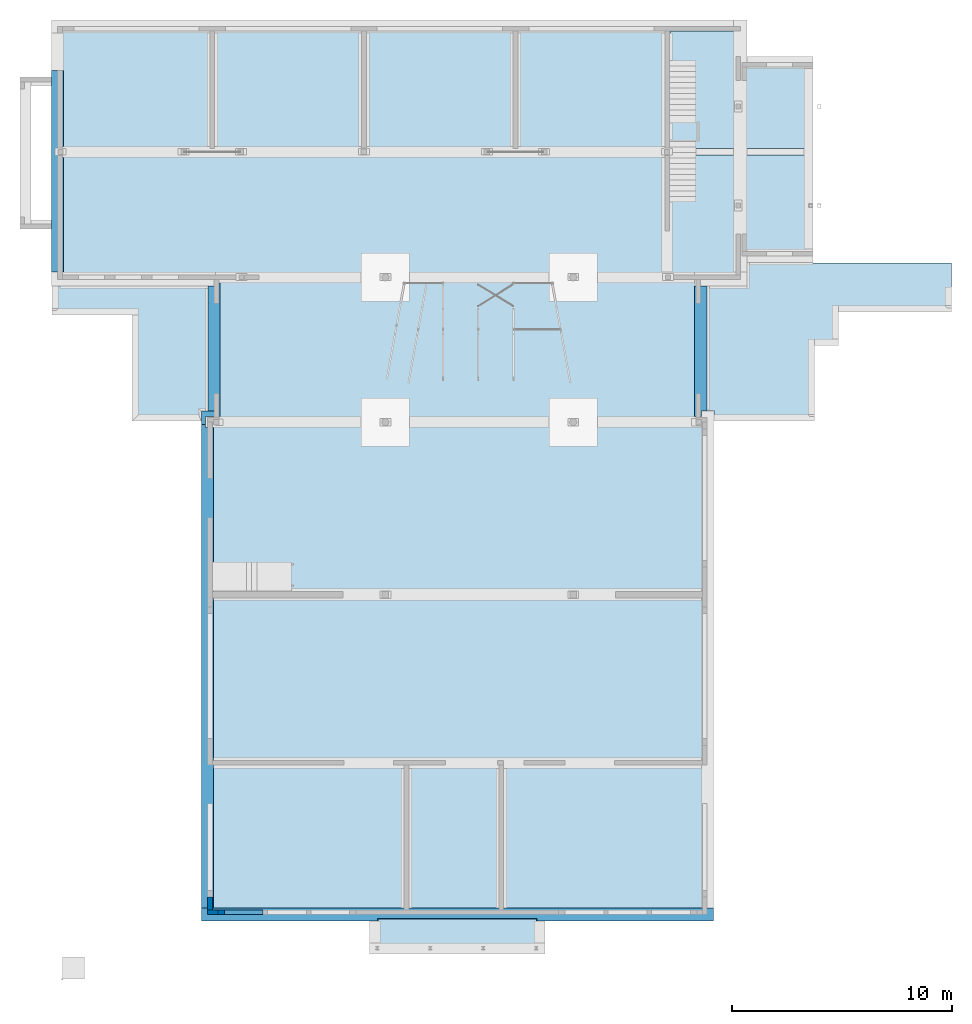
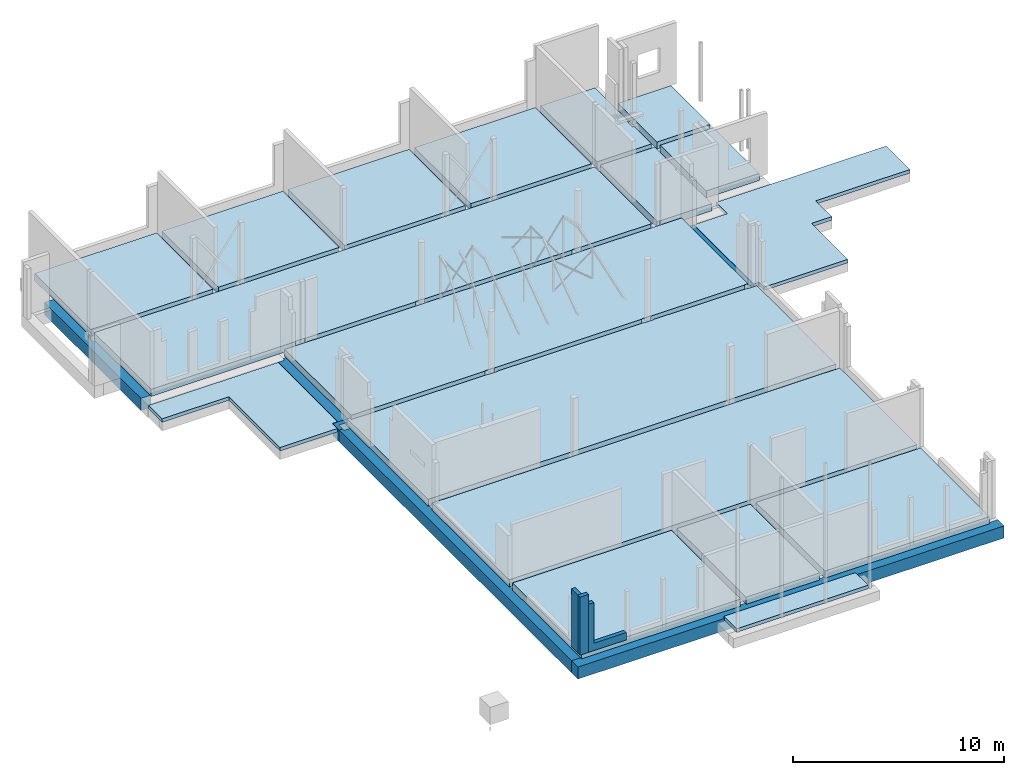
# One storey, part 13 of 17: 18 slabs, 6 beams, 3 walls, 1 opening.
"""IFC2X3 building model written with IfcOpenShell, lengths in millimetres."""

from ifc_helpers import new_model, entity, si_unit, converted_unit, derived_unit, direction, frame, frame_2d, origin, origin_2d_with_axis, place, context, subcontext, project, spatial, polyline, rectangle, outline, extrude, clip, bounded_halfspace, faceted_brep, material, layer, layer_set, layer_usage, type_object, element, save


model = new_model("IFC2X3")

# Units and contexts
model_context = context("Model", 3, precision=0.01, world=origin(), true_north=direction((6.123031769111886e-17, 1.0)))
body_context = subcontext(model_context, "Body", "Model", "MODEL_VIEW")
ifc_project = project(units=[si_unit("LENGTHUNIT", "METRE", prefix="MILLI"), si_unit("AREAUNIT", "SQUARE_METRE", prefix="MILLI"), si_unit("VOLUMEUNIT", "CUBIC_METRE"), converted_unit("PLANEANGLEUNIT", "DEGREE", entity("IfcPlaneAngleMeasure", 0.017453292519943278), si_unit("PLANEANGLEUNIT", "RADIAN"), dimensions=[0, 0, 0, 0, 0, 0, 0]), si_unit("MASSUNIT", "GRAM", prefix="KILO"), derived_unit("MASSDENSITYUNIT", [(si_unit("MASSUNIT", "GRAM", prefix="KILO"), 1), (si_unit("LENGTHUNIT", "METRE"), -3)]), derived_unit("IONCONCENTRATIONUNIT", [(si_unit("MASSUNIT", "GRAM", prefix="KILO"), 1), (si_unit("LENGTHUNIT", "METRE"), -3)]), derived_unit("MOMENTOFINERTIAUNIT", [(si_unit("LENGTHUNIT", "METRE"), 4)]), si_unit("TIMEUNIT", "SECOND"), si_unit("FREQUENCYUNIT", "HERTZ"), si_unit("THERMODYNAMICTEMPERATUREUNIT", "DEGREE_CELSIUS"), derived_unit("THERMALTRANSMITTANCEUNIT", [(si_unit("MASSUNIT", "GRAM", prefix="KILO"), 1), (si_unit("THERMODYNAMICTEMPERATUREUNIT", "KELVIN"), -1), (si_unit("TIMEUNIT", "SECOND"), -3)]), derived_unit("THERMALCONDUCTANCEUNIT", [(si_unit("MASSUNIT", "GRAM", prefix="KILO"), 1), (si_unit("THERMODYNAMICTEMPERATUREUNIT", "KELVIN"), -1), (si_unit("TIMEUNIT", "SECOND"), -3), (si_unit("LENGTHUNIT", "METRE"), 1)]), derived_unit("VOLUMETRICFLOWRATEUNIT", [(si_unit("LENGTHUNIT", "METRE", prefix="DECI"), 3), (si_unit("TIMEUNIT", "SECOND"), -1)]), derived_unit("MASSFLOWRATEUNIT", [(si_unit("MASSUNIT", "GRAM", prefix="KILO"), 1), (si_unit("TIMEUNIT", "SECOND"), -1)]), derived_unit("ROTATIONALFREQUENCYUNIT", [(si_unit("TIMEUNIT", "SECOND"), -1)]), si_unit("ELECTRICCURRENTUNIT", "AMPERE"), si_unit("ELECTRICVOLTAGEUNIT", "VOLT"), si_unit("POWERUNIT", "WATT"), si_unit("FORCEUNIT", "NEWTON", prefix="KILO"), si_unit("ILLUMINANCEUNIT", "LUX"), si_unit("LUMINOUSFLUXUNIT", "LUMEN"), si_unit("LUMINOUSINTENSITYUNIT", "CANDELA"), si_unit("ENERGYUNIT", "JOULE"), derived_unit("USERDEFINED", [(si_unit("MASSUNIT", "GRAM", prefix="KILO"), -1), (si_unit("LENGTHUNIT", "METRE"), -2), (si_unit("TIMEUNIT", "SECOND"), 3), (si_unit("LUMINOUSFLUXUNIT", "LUMEN"), 1)]), derived_unit("USERDEFINED", [(si_unit("MASSUNIT", "GRAM", prefix="KILO"), 1), (si_unit("TIMEUNIT", "SECOND"), -3), (si_unit("LENGTHUNIT", "METRE"), 3), (si_unit("ELECTRICCURRENTUNIT", "AMPERE"), -2)]), derived_unit("SOUNDPOWERUNIT", [(si_unit("MASSUNIT", "GRAM", prefix="KILO"), 1), (si_unit("TIMEUNIT", "SECOND"), -3), (si_unit("LENGTHUNIT", "METRE"), 2)]), derived_unit("SOUNDPRESSUREUNIT", [(si_unit("MASSUNIT", "GRAM", prefix="KILO"), 1), (si_unit("LENGTHUNIT", "METRE"), -1), (si_unit("TIMEUNIT", "SECOND"), -2)]), derived_unit("LINEARVELOCITYUNIT", [(si_unit("LENGTHUNIT", "METRE"), 1), (si_unit("TIMEUNIT", "SECOND"), -1)]), si_unit("PRESSUREUNIT", "PASCAL"), derived_unit("USERDEFINED", [(si_unit("MASSUNIT", "GRAM", prefix="KILO"), 1), (si_unit("LENGTHUNIT", "METRE"), -2), (si_unit("TIMEUNIT", "SECOND"), -2)]), derived_unit("LINEARFORCEUNIT", [(si_unit("MASSUNIT", "GRAM", prefix="KILO"), 1), (si_unit("TIMEUNIT", "SECOND"), -2)]), derived_unit("PLANARFORCEUNIT", [(si_unit("MASSUNIT", "GRAM", prefix="KILO"), 1), (si_unit("LENGTHUNIT", "METRE"), -1), (si_unit("TIMEUNIT", "SECOND"), -2)]), derived_unit("SPECIFICHEATCAPACITYUNIT", [(si_unit("THERMODYNAMICTEMPERATUREUNIT", "KELVIN"), -1), (si_unit("LENGTHUNIT", "METRE"), 2), (si_unit("TIMEUNIT", "SECOND"), -2)]), derived_unit("HEATFLUXDENSITYUNIT", [(si_unit("MASSUNIT", "GRAM", prefix="KILO"), 1), (si_unit("TIMEUNIT", "SECOND"), -3)]), derived_unit("HEATINGVALUEUNIT", [(si_unit("LENGTHUNIT", "METRE"), 2), (si_unit("TIMEUNIT", "SECOND"), -2)]), derived_unit("VAPORPERMEABILITYUNIT", [(si_unit("LENGTHUNIT", "METRE"), -1), (si_unit("TIMEUNIT", "SECOND"), 1)]), derived_unit("DYNAMICVISCOSITYUNIT", [(si_unit("MASSUNIT", "GRAM", prefix="KILO"), 1), (si_unit("TIMEUNIT", "SECOND"), -1), (si_unit("LENGTHUNIT", "METRE"), -1)]), derived_unit("THERMALEXPANSIONCOEFFICIENTUNIT", [(si_unit("THERMODYNAMICTEMPERATUREUNIT", "KELVIN"), -1)]), derived_unit("MODULUSOFELASTICITYUNIT", [(si_unit("MASSUNIT", "GRAM", prefix="KILO"), 1), (si_unit("LENGTHUNIT", "METRE"), -1), (si_unit("TIMEUNIT", "SECOND"), -2)]), derived_unit("ISOTHERMALMOISTURECAPACITYUNIT", [(si_unit("MASSUNIT", "GRAM", prefix="KILO"), -1), (si_unit("LENGTHUNIT", "METRE"), 3)]), derived_unit("MOISTUREDIFFUSIVITYUNIT", [(si_unit("TIMEUNIT", "SECOND"), -1), (si_unit("LENGTHUNIT", "METRE"), 2)]), derived_unit("MASSPERLENGTHUNIT", [(si_unit("MASSUNIT", "GRAM", prefix="KILO"), 1), (si_unit("LENGTHUNIT", "METRE"), -1)]), derived_unit("THERMALRESISTANCEUNIT", [(si_unit("MASSUNIT", "GRAM", prefix="KILO"), -1), (si_unit("TIMEUNIT", "SECOND"), 3), (si_unit("THERMODYNAMICTEMPERATUREUNIT", "KELVIN"), 1)]), derived_unit("ACCELERATIONUNIT", [(si_unit("LENGTHUNIT", "METRE"), 1), (si_unit("TIMEUNIT", "SECOND"), -2)]), derived_unit("ANGULARVELOCITYUNIT", [(si_unit("TIMEUNIT", "SECOND"), -1), (si_unit("PLANEANGLEUNIT", "RADIAN"), 1)]), derived_unit("LINEARSTIFFNESSUNIT", [(si_unit("MASSUNIT", "GRAM", prefix="KILO"), 1), (si_unit("TIMEUNIT", "SECOND"), -2)]), derived_unit("WARPINGCONSTANTUNIT", [(si_unit("LENGTHUNIT", "METRE"), 6)]), derived_unit("LINEARMOMENTUNIT", [(si_unit("MASSUNIT", "GRAM", prefix="KILO"), 1), (si_unit("LENGTHUNIT", "METRE"), 1), (si_unit("TIMEUNIT", "SECOND"), -2)]), derived_unit("TORQUEUNIT", [(si_unit("MASSUNIT", "GRAM", prefix="KILO"), 1), (si_unit("LENGTHUNIT", "METRE"), 2), (si_unit("TIMEUNIT", "SECOND"), -2)])], contexts=[model_context])

# Site, building, storey
site_placement = place(None, origin())
site = spatial("IfcSite", under=ifc_project, at=site_placement, Name="Default", CompositionType="ELEMENT")
building_placement = place(site_placement, origin())
building = spatial("IfcBuilding", under=site, at=building_placement, CompositionType="ELEMENT")
storey_placement = place(building_placement, frame((0.0, 0.0, -70.0)))
storey = spatial("IfcBuildingStorey", under=building, at=storey_placement, Name="F1 begg (bk ruwe vloer)", CompositionType="ELEMENT", Elevation=-69.99999999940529)

# Beams
ifc_material_1 = material(Name="Beton, ihwg C30/37")
beam_type_1 = type_object("IfcBeamType", Name="btl_ihwg - RBeam:600x700", PredefinedType="NOTDEFINED")
beam_1_placement = place(storey_placement, frame((6325.00139722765, 2644.6050130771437, -1110.0)))
element("IfcBeam", 1, at=beam_1_placement, inside=storey, type_object=beam_type_1, material=ifc_material_1, Name="btl_ihwg - RBeam:600x700", ObjectType="btl_ihwg - RBeam:600x700", context=body_context, shape_type="Brep", body=[
    faceted_brep([(23299.984372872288, 0.0, 700.0), (23299.984372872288, 600.0, 700.0), (22749.984372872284, 600.0, 700.0), (13903.354357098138, 600.0, 700.0), (13403.354357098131, 600.0, 700.0), (9589.840287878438, 600.0, 700.0), (9089.840287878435, 600.0, 700.0), (550.0, 600.0, 700.0), (0.0, 600.0, 700.0), (0.0, 0.0, 700.0), (8022.361711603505, 0.0, 700.0), (8022.361711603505, 120.0, 700.0), (15272.361711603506, 120.0, 700.0), (15272.361711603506, 0.0, 700.0), (23299.984372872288, 0.0, 0.0), (15272.361711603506, 0.0, 550.0), (15144.861711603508, 0.0, 550.0), (8149.861711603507, 0.0, 550.0), (8022.361711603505, 0.0, 550.0), (0.0, 0.0, 0.0), (7649.861711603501, 0.0, 0.0), (8149.861711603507, 0.0, 0.0), (15144.861711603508, 0.0, 0.0), (15644.861711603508, 0.0, 0.0), (23299.984372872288, 600.0, 0.0), (0.0, 600.0, 0.0), (550.0, 600.0, 0.0), (9089.840287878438, 600.0, 0.0), (9589.84028787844, 600.0, 0.0), (13403.354357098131, 600.0, 0.0), (13903.354357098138, 600.0, 0.0), (22749.984372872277, 600.0, 0.0), (15272.361711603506, 120.0, 550.0), (8022.361711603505, 120.0, 550.0)], [[[0, 1, 2, 3, 4, 5, 6, 7, 8, 9, 10, 11, 12, 13]], [[14, 0, 13, 15, 16, 17, 18, 10, 9, 19, 20, 21, 22, 23]], [[24, 14, 23, 22, 21, 20, 19, 25, 26, 27, 28, 29, 30, 31]], [[1, 24, 31, 30, 29, 28, 27, 26, 25, 8, 7, 6, 5, 4, 3, 2]], [[1, 0, 14, 24]], [[32, 33, 18, 17, 16, 15]], [[33, 32, 12, 11]], [[18, 33, 11, 10]], [[32, 15, 13, 12]], [[9, 8, 25, 19]]]),
])
beam_2_placement = place(storey_placement, frame((6324.965516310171, 25244.57757401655, -1110.0)))
element("IfcBeam", 2, at=beam_2_placement, inside=storey, type_object=beam_type_1, material=ifc_material_1, Name="btl_ihwg - RBeam:600x700", ObjectType="btl_ihwg - RBeam:600x700", context=body_context, shape_type="Brep", body=[
    faceted_brep([(736.0588430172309, 600.0, 0.0), (736.0588430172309, 600.0, 700.0), (736.0588430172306, 350.0274390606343, 700.0), (736.0588430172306, 350.02743906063, 0.0), (0.0, 600.0, 700.0), (0.0, 600.0, 0.0), (0.0, 0.0, 0.0), (0.0, 0.0, 700.0), (180.02025378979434, 0.0, 700.0), (180.02025378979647, 350.0274390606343, 700.0), (300.036994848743, 600.0, 700.0), (180.02025378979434, 0.0, 0.0), (180.03699484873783, 600.0, 0.0), (300.036994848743, 600.0, 0.0), (180.0202537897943, 350.0274390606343, 0.0)], [[[0, 1, 2, 3]], [[4, 5, 6, 7]], [[4, 7, 8, 9, 2, 1, 10]], [[7, 6, 11, 8]], [[6, 5, 12, 13, 0, 3, 14, 11]], [[1, 0, 13, 12, 5, 4, 10]], [[14, 9, 8, 11]], [[9, 14, 3, 2]]]),
])
ifc_material_2 = material(Name="Concrete - Cast-in-Place - C30/37")
beam_type_2 = type_object("IfcBeamType", Name="btl_ihwg - RBeam:550x700", PredefinedType="NOTDEFINED")
beam_3_placement = place(storey_placement, frame((6625.002511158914, 25594.60501307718, -1110.0), z_axis=(0.0, 0.0, 1.0), x_axis=(0.0, -1.0, 0.0)))
element("IfcBeam", 3, at=beam_3_placement, inside=storey, type_object=beam_type_2, material=ifc_material_2, Name="btl_ihwg - RBeam:550x700", ObjectType="btl_ihwg - RBeam:550x700", context=body_context, shape_type="Brep", body=[
    faceted_brep([(0.0, 550.0, 0.0), (0.0, 550.0, 700.0), (0.0, 436.0218481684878, 700.0), (0.0, 436.0218481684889, 0.0), (-5942.9681520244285, 354.9978761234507, 700.0), (-5942.9681520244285, 0.0, 700.0), (-249.97256093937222, 0.0, 700.0), (-249.97256093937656, 436.0218481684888, 700.0), (-6092.9681520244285, 550.0, 700.0), (-6092.9681520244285, 354.9978761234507, 700.0), (-5942.9681520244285, 0.0, 500.0), (-5942.9681520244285, 0.0, 0.0), (-5822.968152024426, 0.0, 0.0), (-249.97256093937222, 0.0, 0.0), (-249.97256093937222, 0.0, 500.0), (-5942.9681520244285, 354.9978761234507, 0.0), (-6092.9681520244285, 354.9978761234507, 0.0), (-6092.9681520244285, 550.0, 0.0), (-249.97256093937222, 436.0218481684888, 0.0)], [[[0, 1, 2, 3]], [[4, 5, 6, 7, 2, 1, 8, 9]], [[5, 10, 11, 12, 13, 14, 6]], [[11, 15, 16, 17, 0, 3, 18, 13, 12]], [[1, 0, 17, 8]], [[5, 4, 15, 11, 10]], [[15, 4, 9, 16]], [[9, 8, 17, 16]], [[18, 7, 6, 14, 13]], [[7, 18, 3, 2]]]),
])
beam_4_placement = place(storey_placement, frame((6325.001397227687, 3244.6050130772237, -1110.0), z_axis=(0.0, 0.0, 1.0), x_axis=(0.0, -1.0, 0.0)))
element("IfcBeam", 4, at=beam_4_placement, inside=storey, type_object=beam_type_2, material=ifc_material_2, Name="btl_ihwg - RBeam:550x700", ObjectType="btl_ihwg - RBeam:550x700", context=body_context, shape_type="Brep", body=[
    faceted_brep([(0.0, 0.0, 700.0), (0.0, 550.0, 700.0), (-6350.0, 550.0, 700.0), (-6850.0, 550.0, 700.0), (-13975.0, 550.0, 700.0), (-14525.0, 550.0, 700.0), (-21850.0, 550.0, 700.0), (-21850.0, 179.98437287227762, 700.0), (-21999.97256093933, 179.9843728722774, 700.0), (-21999.97256093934, 0.0, 700.0), (0.0, 0.0, 0.0), (-21999.97256093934, 0.0, 0.0), (0.0, 550.0, 0.0), (-21999.97256093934, 179.9843728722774, 0.0), (-21850.0, 179.98437287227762, 0.0), (-21850.0, 550.0, 0.0), (-14525.0, 550.0, 0.0), (-13975.0, 550.0, 0.0), (-6850.0, 550.0, 0.0), (-6350.0, 550.0, 0.0)], [[[0, 1, 2, 3, 4, 5, 6, 7, 8, 9]], [[10, 0, 9, 11]], [[12, 10, 11, 13, 14, 15, 16, 17, 18, 19]], [[1, 12, 19, 18, 17, 16, 15, 6, 5, 4, 3, 2]], [[1, 0, 10, 12]], [[7, 6, 15, 14]], [[7, 14, 13, 8]], [[9, 8, 13, 11]]]),
])
beam_5_placement = place(storey_placement, frame((28774.982459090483, 25594.60501307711, -1110.0), z_axis=(0.0, 0.0, 1.0), x_axis=(0.0, 1.0, 0.0)))
element("IfcBeam", 5, at=beam_5_placement, inside=storey, type_object=beam_type_2, material=ifc_material_2, Name="btl_ihwg - RBeam:550x700", ObjectType="btl_ihwg - RBeam:550x700", context=body_context, shape_type="Brep", body=[
    faceted_brep([(250.0, -300.00331100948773, 700.0), (250.0, -550.0, 700.0), (5942.968152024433, -550.0, 700.0), (5942.968152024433, 0.0, 700.0), (0.0, 0.0, 700.0), (0.0, -300.00331100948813, 700.0), (250.0, -550.0, 0.0), (309.97256093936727, -550.0, 0.0), (5942.968152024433, -550.0, 0.0), (5942.968152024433, -550.0, 500.0), (250.0, -300.00331100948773, 0.0), (0.0, -300.00331100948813, 0.0), (0.0, 0.0, 0.0), (5942.968152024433, 0.0, 0.0)], [[[0, 1, 2, 3, 4, 5]], [[1, 6, 7, 8, 9, 2]], [[6, 10, 11, 12, 13, 8, 7]], [[12, 4, 3, 13]], [[10, 0, 5, 11]], [[0, 10, 6, 1]], [[5, 4, 12, 11]], [[3, 2, 9, 8, 13]]]),
])
beam_6_placement = place(storey_placement, frame((-499.99961271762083, 32187.573165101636, -1110.0), z_axis=(0.0, 0.0, 1.0), x_axis=(0.0, -1.0, 0.0)))
element("IfcBeam", 6, at=beam_6_placement, inside=storey, type_object=beam_type_2, material=ifc_material_2, Name="btl_ihwg - RBeam:550x700", ObjectType="btl_ihwg - RBeam:550x700", context=body_context, shape_type="Brep", body=[
    faceted_brep([(-5207.000039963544, 376.6849582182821, 700.0), (-5707.000039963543, 376.6849582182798, 700.0), (-5707.000039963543, 550.0, 700.0), (-9157.0, 550.0, 700.0), (-9157.0, 0.0, 700.0), (-8856.666141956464, 0.0, 700.0), (-8456.66614195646, 0.0, 700.0), (-2356.3647477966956, 0.0, 700.0), (-1956.3647477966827, 0.0, 700.0), (0.0, 0.0, 700.0), (0.0, 550.0, 700.0), (-5207.000039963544, 550.0, 700.0), (-9157.0, 0.0, 0.0), (-8856.666141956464, 0.0, 0.0), (-8456.66614195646, 0.0, 0.0), (-2356.3647477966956, 0.0, 0.0), (-1956.3647477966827, 0.0, 0.0), (0.0, 0.0, 0.0), (-5707.000039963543, 376.68495821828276, 0.0), (-5207.000039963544, 376.68495821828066, 0.0), (-5207.000039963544, 550.0, 0.0), (0.0, 550.0, 0.0), (-9157.0, 550.0, 0.0), (-5707.000039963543, 550.0, 0.0)], [[[0, 1, 2, 3, 4, 5, 6, 7, 8, 9, 10, 11]], [[4, 12, 13, 14, 15, 16, 17, 9, 8, 7, 6, 5]], [[18, 19, 20, 21, 17, 16, 15, 14, 13, 12, 22, 23]], [[20, 11, 10, 21]], [[18, 1, 0, 19]], [[19, 0, 11, 20]], [[1, 18, 23, 2]], [[2, 23, 22, 3]], [[3, 22, 12, 4]], [[10, 9, 17, 21]]]),
])

# Slabs
ifc_material_3 = material(Name="Druklaag, C20/25 op systeemvloer")
ifc_layer_1 = layer(ifc_material_3, 60.0)
ifc_material_4 = material(Name="Beton, prefab - kanaalplaat")
ifc_layer_2 = layer(ifc_material_4, 200.0)
ifc_material_5 = material(Name="Isolatie, onder vloer")
ifc_layer_3 = layer(ifc_material_5, 150.0)
ifc_layer_set_1 = layer_set([ifc_layer_1, ifc_layer_2, ifc_layer_3], Name="Floor:A1_ geisoleerd kanaalplaat d=200+ druklaag 60-50-60")
ifc_layer_usage_1 = layer_usage(ifc_layer_set_1, "AXIS3", "POSITIVE", 0.0)
slab_type_1 = type_object("IfcSlabType", Name="Floor:A1_ geisoleerd kanaalplaat d=200+ druklaag 60-50-60", PredefinedType="FLOOR", material=ifc_layer_set_1)
slab_1_placement = place(storey_placement, origin())
element("IfcSlab", 7, at=slab_1_placement, inside=storey, type_object=slab_type_1, material=ifc_layer_usage_1, Name="Floor:A1_ geisoleerd kanaalplaat d=200+ druklaag 60-50-60", ObjectType="Floor:A1_ geisoleerd kanaalplaat d=200+ druklaag 60-50-60", PredefinedType="FLOOR", context=body_context, shape_type="SweptSolid", body=[
    extrude(rectangle(XDim=6549.999999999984, YDim=8689.84090385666, at=frame_2d((1.1368683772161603e-12, -7.275957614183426e-12), x_axis=(1.0, 0.0))), frame((11169.921233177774, 6419.605013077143, 0.0), z_axis=(0.0, 0.0, -1.0), x_axis=(0.0, 1.0, 0.0)), (0.0, 0.0, 1.0), 410.00000000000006),
])
slab_2_placement = place(storey_placement, origin())
element("IfcSlab", 8, at=slab_2_placement, inside=storey, type_object=slab_type_1, material=ifc_layer_usage_1, Name="Floor:A1_ geisoleerd kanaalplaat d=200+ druklaag 60-50-60", ObjectType="Floor:A1_ geisoleerd kanaalplaat d=200+ druklaag 60-50-60", PredefinedType="FLOOR", context=body_context, shape_type="SweptSolid", body=[
    extrude(rectangle(XDim=6549.999999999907, YDim=4013.514069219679, at=frame_2d((1.1368683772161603e-12, 1.0231815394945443e-12), x_axis=(1.0, 0.0))), frame((17821.598719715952, 6419.605013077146, 0.0), z_axis=(0.0, 0.0, -1.0), x_axis=(0.0, 1.0, 0.0)), (0.0, 0.0, 1.0), 410.00000000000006),
])
slab_3_placement = place(storey_placement, origin())
element("IfcSlab", 9, at=slab_3_placement, inside=storey, type_object=slab_type_1, material=ifc_layer_usage_1, Name="Floor:A1_ geisoleerd kanaalplaat d=200+ druklaag 60-50-60", ObjectType="Floor:A1_ geisoleerd kanaalplaat d=200+ druklaag 60-50-60", PredefinedType="FLOOR", context=body_context, shape_type="SweptSolid", body=[
    extrude(rectangle(XDim=6549.999999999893, YDim=8996.630387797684, at=frame_2d((-2.2737367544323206e-13, 0.0), x_axis=(1.0, 0.0))), frame((24626.67094822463, 6419.605013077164, 0.0), z_axis=(0.0, 0.0, -1.0), x_axis=(0.0, 1.0, 0.0)), (0.0, 0.0, 1.0), 410.00000000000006),
])
slab_4_placement = place(storey_placement, origin())
element("IfcSlab", 10, at=slab_4_placement, inside=storey, type_object=slab_type_1, material=ifc_layer_usage_1, Name="Floor:A1_ geisoleerd kanaalplaat d=200+ druklaag 60-50-60", ObjectType="Floor:A1_ geisoleerd kanaalplaat d=200+ druklaag 60-50-60", PredefinedType="FLOOR", context=body_context, shape_type="SweptSolid", body=[
    extrude(rectangle(XDim=7325.00000000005, YDim=22299.99943109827, at=origin_2d_with_axis()), frame((17974.98642657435, 13657.105013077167, 0.0), z_axis=(0.0, 0.0, -1.0), x_axis=(0.0, 1.0, 0.0)), (0.0, 0.0, 1.0), 410.00000000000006),
])
slab_5_placement = place(storey_placement, origin())
element("IfcSlab", 11, at=slab_5_placement, inside=storey, type_object=slab_type_1, material=ifc_layer_usage_1, Name="Floor:A1_ geisoleerd kanaalplaat d=200+ druklaag 60-50-60", ObjectType="Floor:A1_ geisoleerd kanaalplaat d=200+ druklaag 60-50-60", PredefinedType="FLOOR", context=body_context, shape_type="SweptSolid", body=[
    extrude(outline(polyline([(-909.7097360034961, -12944.787894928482), (5383.2584160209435, -12944.787894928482), (5383.258416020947, 8755.170204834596), (-884.7097360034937, 8755.170204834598), (-884.7097360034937, 8569.167275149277), (-909.7097360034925, 8569.167275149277), (-909.7097360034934, 3430.1743528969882), (-884.7097360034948, 3430.1743528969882), (-884.7097360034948, 2930.174352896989), (-909.7097360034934, 2930.174352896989), (-909.7097360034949, -5119.949145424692), (-884.7097360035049, -5119.949145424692), (-884.7097360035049, -5619.949145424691), (-909.7097360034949, -5619.949145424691), (-909.7097360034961, -12944.787894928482)])), frame((20069.81225425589, 26404.31474908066, 0.0), z_axis=(0.0, 0.0, -1.0), x_axis=(0.0, 1.0, 0.0)), (0.0, 0.0, 1.0), 410.00000000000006),
])
slab_6_placement = place(storey_placement, origin())
element("IfcSlab", 12, at=slab_6_placement, inside=storey, type_object=slab_type_1, material=ifc_layer_usage_1, Name="Floor:A1_ geisoleerd kanaalplaat d=200+ druklaag 60-50-60", ObjectType="Floor:A1_ geisoleerd kanaalplaat d=200+ druklaag 60-50-60", PredefinedType="FLOOR", context=body_context, shape_type="SweptSolid", body=[
    extrude(outline(polyline([(-611.8888933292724, -16320.963817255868), (4795.111146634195, -16320.963817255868), (4795.1111466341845, 11054.015315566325), (-586.8888933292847, 11054.015315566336), (-586.8888933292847, 10991.921648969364), (-611.8888933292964, 10991.921648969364), (-611.8888933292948, 7179.022402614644), (-586.8888933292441, 7179.022402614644), (-586.888893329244, 6679.022402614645), (-611.8888933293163, 6679.022402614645), (-611.888893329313, -1371.1010957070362), (-586.8888933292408, -1371.1010957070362), (-586.8888933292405, -1871.101095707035), (-611.88889332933, -1871.101095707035), (-611.8888933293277, -7920.407880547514), (-586.8888933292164, -7920.407880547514), (-586.8888933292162, -8420.407880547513), (-611.8888933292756, -8420.407880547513), (-611.8888933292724, -16320.963817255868)])), frame((16320.96420453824, 32699.462058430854, 0.0), z_axis=(0.0, 0.0, -1.0), x_axis=(0.0, 1.0, 0.0)), (0.0, 0.0, 1.0), 410.00000000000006),
])
slab_7_placement = place(storey_placement, origin())
element("IfcSlab", 13, at=slab_7_placement, inside=storey, type_object=slab_type_1, material=ifc_layer_usage_1, Name="Floor:A1_ geisoleerd kanaalplaat d=200+ druklaag 60-50-60", ObjectType="Floor:A1_ geisoleerd kanaalplaat d=200+ druklaag 60-50-60", PredefinedType="FLOOR", context=body_context, shape_type="SweptSolid", body=[
    extrude(outline(polyline([(-2305.509748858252, -1798.9781565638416), (3076.4902911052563, -1798.9781565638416), (3076.4902911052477, 1176.0109431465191), (1029.7646033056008, 1176.0109431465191), (1029.7646033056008, 1108.0195182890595), (529.7646033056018, 1108.0195182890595), (529.7646033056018, 1176.019518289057), (-2330.509748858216, 1176.019518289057), (-2330.509748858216, -1661.071823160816), (-2305.509748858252, -1661.071823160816), (-2305.509748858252, -1798.9781565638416)])), frame((29473.957676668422, 34418.08291395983, 0.0), z_axis=(0.0, 0.0, -1.0), x_axis=(0.0, 1.0, 0.0)), (0.0, 0.0, 1.0), 410.00000000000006),
])
slab_8_placement = place(storey_placement, origin())
element("IfcSlab", 14, at=slab_8_placement, inside=storey, type_object=slab_type_1, material=ifc_layer_usage_1, Name="Floor:A1_ geisoleerd kanaalplaat d=200+ druklaag 60-50-60", ObjectType="Floor:A1_ geisoleerd kanaalplaat d=200+ druklaag 60-50-60", PredefinedType="FLOOR", context=body_context, shape_type="SweptSolid", body=[
    extrude(outline(polyline([(-2294.4668785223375, -2213.8412011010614), (3055.5331214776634, -2213.8412011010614), (3055.5331214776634, 759.5368287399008), (-130.53312147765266, 759.5368287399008), (-130.53312147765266, 693.1564737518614), (-630.5331214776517, 693.1564737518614), (-630.5331214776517, 761.147898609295), (-2294.4668785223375, 761.147898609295), (-2294.4668785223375, -2213.8412011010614)])), frame((29888.82072120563, 40089.040083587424, 0.0), z_axis=(0.0, 0.0, -1.0), x_axis=(0.0, 1.0, 0.0)), (0.0, 0.0, 1.0), 410.00000000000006),
])
slab_9_placement = place(storey_placement, origin())
element("IfcSlab", 15, at=slab_9_placement, inside=storey, type_object=slab_type_1, material=ifc_layer_usage_1, Name="Floor:A1_ geisoleerd kanaalplaat d=200+ druklaag 60-50-60", ObjectType="Floor:A1_ geisoleerd kanaalplaat d=200+ druklaag 60-50-60", PredefinedType="FLOOR", context=body_context, shape_type="SweptSolid", body=[
    extrude(rectangle(XDim=5349.9999999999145, YDim=6600.00000000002, at=frame_2d((-2.0463630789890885e-12, 2.2737367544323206e-12), x_axis=(1.0, 0.0))), frame((24074.984654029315, 40469.573205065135, 0.0), z_axis=(0.0, 0.0, -1.0), x_axis=(0.0, 1.0, 0.0)), (0.0, 0.0, 1.0), 410.00000000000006),
])
slab_10_placement = place(storey_placement, origin())
element("IfcSlab", 16, at=slab_10_placement, inside=storey, type_object=slab_type_1, material=ifc_layer_usage_1, Name="Floor:A1_ geisoleerd kanaalplaat d=200+ druklaag 60-50-60", ObjectType="Floor:A1_ geisoleerd kanaalplaat d=200+ druklaag 60-50-60", PredefinedType="FLOOR", context=body_context, shape_type="SweptSolid", body=[
    extrude(rectangle(XDim=5349.999999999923, YDim=6600.0000000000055, at=frame_2d((2.2737367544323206e-12, 1.1368683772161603e-12), x_axis=(1.0, 0.0))), frame((17175.000781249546, 40469.57320506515, 0.0), z_axis=(0.0, 0.0, -1.0), x_axis=(0.0, 1.0, 0.0)), (0.0, 0.0, 1.0), 410.00000000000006),
])
slab_11_placement = place(storey_placement, origin())
element("IfcSlab", 17, at=slab_11_placement, inside=storey, type_object=slab_type_1, material=ifc_layer_usage_1, Name="Floor:A1_ geisoleerd kanaalplaat d=200+ druklaag 60-50-60", ObjectType="Floor:A1_ geisoleerd kanaalplaat d=200+ druklaag 60-50-60", PredefinedType="FLOOR", context=body_context, shape_type="SweptSolid", body=[
    extrude(rectangle(XDim=5349.999999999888, YDim=6600.000000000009, at=frame_2d((2.2737367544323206e-12, -9.094947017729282e-13), x_axis=(1.0, 0.0))), frame((10275.00078124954, 40469.57320506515, 0.0), z_axis=(0.0, 0.0, -1.0), x_axis=(0.0, 1.0, 0.0)), (0.0, 0.0, 1.0), 410.00000000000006),
])
slab_12_placement = place(storey_placement, origin())
element("IfcSlab", 18, at=slab_12_placement, inside=storey, type_object=slab_type_1, material=ifc_layer_usage_1, Name="Floor:A1_ geisoleerd kanaalplaat d=200+ druklaag 60-50-60", ObjectType="Floor:A1_ geisoleerd kanaalplaat d=200+ druklaag 60-50-60", PredefinedType="FLOOR", context=body_context, shape_type="SweptSolid", body=[
    extrude(rectangle(XDim=5349.9999999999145, YDim=6675.000393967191, at=frame_2d((-2.0463630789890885e-12, 0.0), x_axis=(1.0, 0.0))), frame((3337.5005842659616, 40469.57320506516, 0.0), z_axis=(0.0, 0.0, -1.0), x_axis=(0.0, 1.0, 0.0)), (0.0, 0.0, 1.0), 410.00000000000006),
])
slab_13_placement = place(storey_placement, origin())
element("IfcSlab", 19, at=slab_13_placement, inside=storey, type_object=slab_type_1, material=ifc_layer_usage_1, Name="Floor:A1_ geisoleerd kanaalplaat d=200+ druklaag 60-50-60", ObjectType="Floor:A1_ geisoleerd kanaalplaat d=200+ druklaag 60-50-60", PredefinedType="FLOOR", context=body_context, shape_type="SweptSolid", body=[
    extrude(outline(polyline([(-6593.746570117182, -11606.217449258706), (1081.2259908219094, -11606.217449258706), (1081.2259908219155, -11470.185875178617), (931.2534298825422, -11470.185875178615), (931.2534298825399, -3981.3471256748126), (906.2534298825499, -3981.3471256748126), (906.253429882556, -3481.3471256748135), (931.253429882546, -3481.3471256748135), (931.2534298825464, 4568.7763726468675), (906.2534298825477, 4568.7763726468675), (906.2534298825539, 5068.776372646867), (931.2534298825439, 5068.776372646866), (931.2534298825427, 10207.769294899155), (906.2534298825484, 10207.769294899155), (906.2534298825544, 10693.775535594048), (-6593.746570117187, 10693.775535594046), (-6593.746570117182, -11606.217449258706)])), frame((18431.210234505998, 24263.351583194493, 0.0), z_axis=(0.0, 0.0, -1.0), x_axis=(0.0, 1.0, 0.0)), (0.0, 0.0, 1.0), 410.00000000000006),
])
slab_14_placement = place(storey_placement, origin())
element("IfcSlab", 20, at=slab_14_placement, inside=storey, type_object=slab_type_1, material=ifc_layer_usage_1, Name="Floor:A1_ geisoleerd kanaalplaat d=200+ druklaag 60-50-60", ObjectType="Floor:A1_ geisoleerd kanaalplaat d=200+ druklaag 60-50-60", PredefinedType="FLOOR", context=body_context, shape_type="SweptSolid", body=[
    extrude(rectangle(XDim=2899.9828497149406, YDim=3700.260320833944, at=origin_2d_with_axis()), frame((32399.985770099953, 39644.70336548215, 0.0), z_axis=(0.0, 0.0, -1.0), x_axis=(1.0, 0.0, 0.0)), (0.0, 0.0, 1.0), 410.00000000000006),
])
slab_15_placement = place(storey_placement, origin())
element("IfcSlab", 21, at=slab_15_placement, inside=storey, type_object=slab_type_1, material=ifc_layer_usage_1, Name="Floor:A1_ geisoleerd kanaalplaat d=200+ druklaag 60-50-60", ObjectType="Floor:A1_ geisoleerd kanaalplaat d=200+ druklaag 60-50-60", PredefinedType="FLOOR", context=body_context, shape_type="SweptSolid", body=[
    extrude(rectangle(XDim=2899.982849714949, YDim=4362.870920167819, at=origin_2d_with_axis()), frame((32399.98577009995, 35313.13774498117, 0.0), z_axis=(0.0, 0.0, -1.0), x_axis=(1.0, 0.0, 0.0)), (0.0, 0.0, 1.0), 410.00000000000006),
])
ifc_layer_4 = layer(ifc_material_4, 200.0)
ifc_layer_set_2 = layer_set([ifc_layer_4], Name="Floor:A2_kanaalplaat d=200")
ifc_layer_usage_2 = layer_usage(ifc_layer_set_2, "AXIS3", "POSITIVE", 0.0)
slab_type_2 = type_object("IfcSlabType", Name="Floor:A2_kanaalplaat d=200", PredefinedType="FLOOR", material=ifc_layer_set_2)
slab_16_placement = place(storey_placement, origin())
element("IfcSlab", 22, at=slab_16_placement, inside=storey, type_object=slab_type_2, material=ifc_layer_usage_2, Name="Floor:A2_kanaalplaat d=200", ObjectType="Floor:A2_kanaalplaat d=200", PredefinedType="FLOOR", context=body_context, shape_type="SweptSolid", body=[
    extrude(rectangle(XDim=1199.9999999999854, YDim=7195.000000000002, at=origin_2d_with_axis()), frame((17972.36310883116, 2144.6050130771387, -350.0), z_axis=(0.0, 0.0, -1.0), x_axis=(0.0, 1.0, 0.0)), (0.0, 0.0, 1.0), 200.00000000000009),
])
ifc_material_6 = material(Name="Concrete - Cast-in-Place - C20/25")
ifc_layer_5 = layer(ifc_material_6, 200.0)
ifc_layer_set_3 = layer_set([ifc_layer_5], Name="Floor:A3_ ihwg betonvloer d=200")
ifc_layer_usage_3 = layer_usage(ifc_layer_set_3, "AXIS3", "POSITIVE", 0.0)
slab_type_3 = type_object("IfcSlabType", Name="Floor:A3_ ihwg betonvloer d=200", PredefinedType="FLOOR", material=ifc_layer_set_3)
slab_17_placement = place(storey_placement, origin())
element("IfcSlab", 23, at=slab_17_placement, inside=storey, type_object=slab_type_3, material=ifc_layer_usage_3, Name="Floor:A3_ ihwg betonvloer d=200", ObjectType="Floor:A3_ ihwg betonvloer d=200", PredefinedType="FLOOR", context=body_context, shape_type="SweptSolid", body=[
    extrude(outline(polyline([(1978.248897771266, -4377.490751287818), (3268.2488977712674, -4377.490751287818), (3268.2488977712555, 2702.5092487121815), (-2384.746693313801, 2702.5092487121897), (-2384.746693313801, 2402.4722538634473), (-2861.751102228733, 2402.472253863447), (-2861.751102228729, -727.4907512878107), (1978.248897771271, -727.4907512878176), (1978.248897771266, -4377.490751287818)])), frame((3902.493262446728, 28249.324267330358, -410.0), z_axis=(0.0, 0.0, -1.0), x_axis=(0.0, 1.0, 0.0)), (0.0, 0.0, 1.0), 200.0),
])
slab_18_placement = place(storey_placement, origin())
element("IfcSlab", 24, at=slab_18_placement, inside=storey, type_object=slab_type_3, material=ifc_layer_usage_3, Name="Floor:A3_ ihwg betonvloer d=200", ObjectType="Floor:A3_ ihwg betonvloer d=200", PredefinedType="FLOOR", context=body_context, shape_type="SweptSolid", body=[
    extrude(outline(polyline([(-3226.3806222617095, -4018.0685649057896), (2426.5875297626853, -4018.0685649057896), (2426.587529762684, -2194.6604864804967), (3503.448273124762, -2194.6604864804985), (3503.4482731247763, 7106.931435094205), (1255.4482731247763, 7106.931435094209), (1255.4482731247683, 1961.931435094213), (-264.5517268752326, 1961.9314350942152), (-264.5517268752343, 861.9314350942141), (-3694.5517268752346, 861.9314350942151), (-3694.551726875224, -3718.0652538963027), (-3226.3806222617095, -3718.065253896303), (-3226.3806222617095, -4018.0685649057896)])), frame((33363.051023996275, 29090.98563533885, -410.0), z_axis=(0.0, 0.0, -1.0), x_axis=(0.0, 1.0, 0.0)), (0.0, 0.0, 1.0), 200.0),
])

# Walls
ifc_material_7 = material(Name="Kalkzandsteen, lijmwerk CS12")
ifc_layer_6 = layer(ifc_material_7, 214.0)
ifc_layer_set_4 = layer_set([ifc_layer_6], Name="Basic Wall:bt_kzst 214")
ifc_layer_usage_4 = layer_usage(ifc_layer_set_4, "AXIS2", "POSITIVE", -107.0)
wall_type = type_object("IfcWallType", Name="Basic Wall:bt_kzst 214", PredefinedType="STANDARD", material=ifc_layer_set_4)
wall_1_placement = place(storey_placement, frame((6611.000781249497, 3037.6050130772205, 0.0)))
element("IfcWallStandardCase", 25, at=wall_1_placement, inside=storey, type_object=wall_type, material=ifc_layer_usage_4, Name="Basic Wall:bt_kzst 214", ObjectType="Basic Wall:bt_kzst 214", context=body_context, shape_type="Clipping", body=[
    clip(extrude(rectangle(XDim=463.9355440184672, YDim=214.00000000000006, at=frame_2d((231.9677720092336, -6.394884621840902e-14), x_axis=(-1.0, 0.0))), origin(), (0.0, 0.0, 1.0), 3349.9999999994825), bounded_halfspace(frame((0.0, -107.0, 3350.0), z_axis=(0.0, 0.0, -1.0), x_axis=(0.0, -1.0, 0.0)), True, frame((0.0, -107.0, 3350.0)), polyline([(0.0, 0.0), (463.93554401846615, 0.0), (463.93554401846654, 214.0), (214.0, 214.0), (0.0, 214.0), (0.0, 0.0)]))),
])
wall_2_placement = place(storey_placement, frame((6718.000781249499, 3737.6050130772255, 0.0), z_axis=(0.0, 0.0, 1.0), x_axis=(0.0, -1.0, 0.0)))
element("IfcWallStandardCase", 26, at=wall_2_placement, inside=storey, type_object=wall_type, material=ifc_layer_usage_4, Name="Basic Wall:bt_kzst 214", ObjectType="Basic Wall:bt_kzst 214", context=body_context, shape_type="Clipping", body=[
    clip(extrude(rectangle(XDim=593.0000000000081, YDim=213.999999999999, at=frame_2d((296.50000000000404, -9.237055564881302e-14), x_axis=(-1.0, 0.0))), origin(), (0.0, 0.0, 1.0), 3349.9999999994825), bounded_halfspace(frame((0.0, -107.0, 3350.0), z_axis=(0.0, 0.0, -1.0), x_axis=(1.0, 0.0, 0.0)), True, frame((0.0, -107.0, 3350.0)), polyline([(0.0, 0.0), (593.0, 0.0), (593.0, 214.0), (0.0, 214.0), (0.0, 0.0)]))),
])

# Wall, opening
wall_3_placement = place(storey_placement, frame((7074.936325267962, 3037.605013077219, 0.0)))
wall_3 = element("IfcWallStandardCase", 27, at=wall_3_placement, inside=storey, type_object=wall_type, material=ifc_layer_usage_4, Name="Basic Wall:bt_kzst 214", ObjectType="Basic Wall:bt_kzst 214", context=body_context, shape_type="SweptSolid", body=[
    extrude(rectangle(XDim=2065.208586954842, YDim=214.00000000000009, at=frame_2d((1032.604293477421, 9.237055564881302e-14), x_axis=(-1.0, 0.0))), origin(), (0.0, 0.0, 1.0), 2777.9999999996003),
])
opening_placement = place(wall_3_placement, origin())
element("IfcOpeningElement", 28, at=opening_placement, cuts=wall_3, Name="Basic Wall:bt_kzst 214", ObjectType="Opening", context=body_context, shape_type="SweptSolid", body=[
    extrude(rectangle(XDim=2348.0, YDim=5700.32586260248, at=frame_2d((0.0, 6.821210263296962e-13), x_axis=(1.0, 0.0))), frame((3150.920004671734, -1417.0, 1604.0), z_axis=(0.0, 1.0, 0.0), x_axis=(0.0, 0.0, -1.0)), (0.0, 0.0, 1.0), 3048.0),
])

save(model, "model.ifc")
